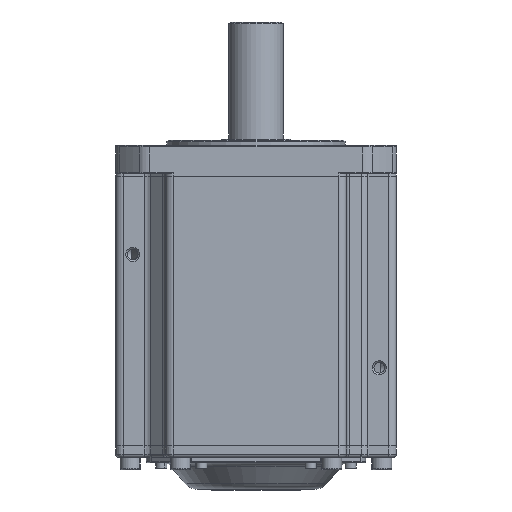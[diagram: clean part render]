
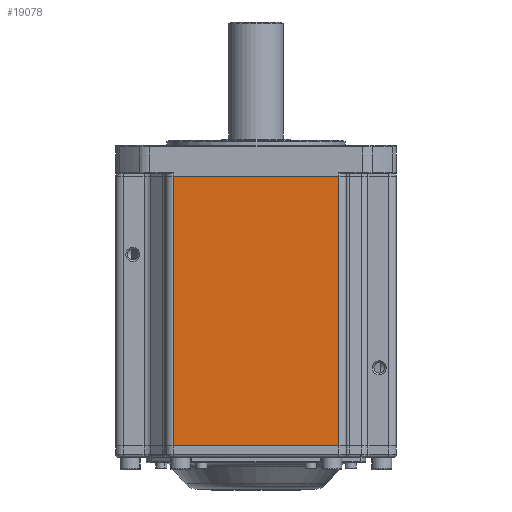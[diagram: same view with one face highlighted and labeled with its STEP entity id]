
A CAD part, front view. The second image highlights one B-rep face of the part: STEP entity #19078.
In plain terms, the highlighted planar face has unit normal (0, -1, 0).
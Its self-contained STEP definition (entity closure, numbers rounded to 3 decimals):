
#1177 = CARTESIAN_POINT ( 'NONE',  ( -154.318, -89.007, -69.273 ) ) ;
#3049 = AXIS2_PLACEMENT_3D ( 'NONE', #29020, #58385, #39563 ) ;
#3097 = CARTESIAN_POINT ( 'NONE',  ( 58.026, -89.007, 103.327 ) ) ;
#4861 = CARTESIAN_POINT ( 'NONE',  ( -52.974, -89.007, -896.673 ) ) ;
#5517 = CARTESIAN_POINT ( 'NONE',  ( 53.026, -89.007, 103.327 ) ) ;
#6891 = VECTOR ( 'NONE', #46315, 1000. ) ;
#8080 = VERTEX_POINT ( 'NONE', #36258 ) ;
#9258 = LINE ( 'NONE', #1177, #6891 ) ;
#9680 = EDGE_LOOP ( 'NONE', ( #36578, #35508, #61115, #44933 ) ) ;
#9788 = VERTEX_POINT ( 'NONE', #61142 ) ;
#14629 = CARTESIAN_POINT ( 'NONE',  ( 53.026, -89.007, -69.273 ) ) ;
#18657 = VERTEX_POINT ( 'NONE', #5517 ) ;
#19078 = ADVANCED_FACE ( 'NONE', ( #47263 ), #43045, .F. ) ;
#22156 = LINE ( 'NONE', #4861, #62376 ) ;
#23591 = VERTEX_POINT ( 'NONE', #14629 ) ;
#26881 = CARTESIAN_POINT ( 'NONE',  ( 53.026, -89.007, -896.673 ) ) ;
#27956 = VECTOR ( 'NONE', #37655, 1000. ) ;
#29020 = CARTESIAN_POINT ( 'NONE',  ( 58.026, -89.007, -896.673 ) ) ;
#35508 = ORIENTED_EDGE ( 'NONE', *, *, #46830, .T. ) ;
#36258 = CARTESIAN_POINT ( 'NONE',  ( -52.974, -89.007, -69.273 ) ) ;
#36578 = ORIENTED_EDGE ( 'NONE', *, *, #37385, .T. ) ;
#37385 = EDGE_CURVE ( 'NONE', #9788, #8080, #22156, .T. ) ;
#37655 = DIRECTION ( 'NONE',  ( -1., 0., 0. ) ) ;
#37992 = LINE ( 'NONE', #3097, #27956 ) ;
#39563 = DIRECTION ( 'NONE',  ( 0., 0., -1. ) ) ;
#43045 = PLANE ( 'NONE',  #3049 ) ;
#44372 = DIRECTION ( 'NONE',  ( 0., 0., -1. ) ) ;
#44933 = ORIENTED_EDGE ( 'NONE', *, *, #45250, .T. ) ;
#45250 = EDGE_CURVE ( 'NONE', #18657, #9788, #37992, .T. ) ;
#46315 = DIRECTION ( 'NONE',  ( 1., 0., 0. ) ) ;
#46830 = EDGE_CURVE ( 'NONE', #8080, #23591, #9258, .T. ) ;
#47263 = FACE_OUTER_BOUND ( 'NONE', #9680, .T. ) ;
#48120 = LINE ( 'NONE', #26881, #50488 ) ;
#50488 = VECTOR ( 'NONE', #61446, 1000. ) ;
#58385 = DIRECTION ( 'NONE',  ( 0., 1., 0. ) ) ;
#61115 = ORIENTED_EDGE ( 'NONE', *, *, #62056, .T. ) ;
#61142 = CARTESIAN_POINT ( 'NONE',  ( -52.974, -89.007, 103.327 ) ) ;
#61446 = DIRECTION ( 'NONE',  ( 0., 0., 1. ) ) ;
#62056 = EDGE_CURVE ( 'NONE', #23591, #18657, #48120, .T. ) ;
#62376 = VECTOR ( 'NONE', #44372, 1000. ) ;
